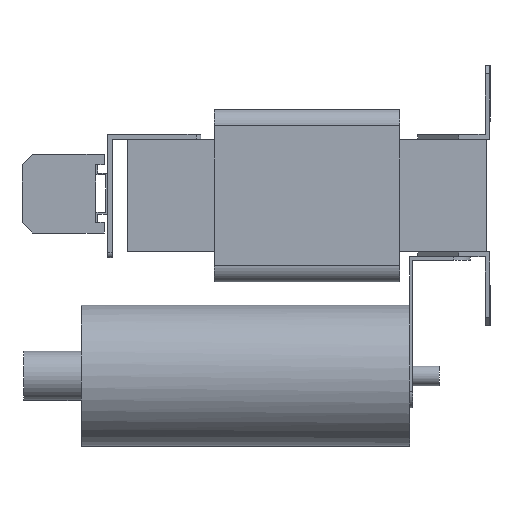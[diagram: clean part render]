
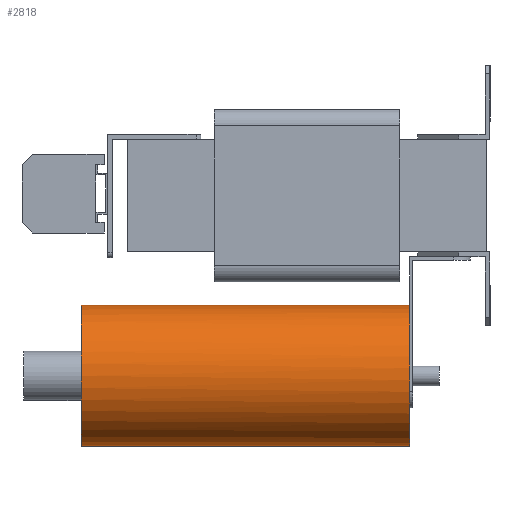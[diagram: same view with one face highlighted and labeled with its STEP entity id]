
A CAD part, left-side view. The second image highlights one B-rep face of the part: STEP entity #2818.
In plain terms, the highlighted cylindrical face has radius 43 mm (diameter 86 mm), a full revolution.
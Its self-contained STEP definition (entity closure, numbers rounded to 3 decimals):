
#72=CYLINDRICAL_SURFACE('',#3082,43.);
#166=CIRCLE('',#3080,43.);
#168=CIRCLE('',#3083,43.);
#169=CIRCLE('',#3084,43.);
#170=CIRCLE('',#3085,43.);
#319=FACE_OUTER_BOUND('',#491,.T.);
#491=EDGE_LOOP('',(#2513,#2514,#2515,#2516,#2517,#2518));
#804=LINE('',#4666,#1115);
#1115=VECTOR('',#3852,43.);
#1372=VERTEX_POINT('',#4644);
#1376=VERTEX_POINT('',#4657);
#1378=VERTEX_POINT('',#4662);
#1379=VERTEX_POINT('',#4664);
#1760=EDGE_CURVE('',#1376,#1376,#166,.T.);
#1762=EDGE_CURVE('',#1372,#1378,#168,.T.);
#1763=EDGE_CURVE('',#1379,#1372,#169,.T.);
#1764=EDGE_CURVE('',#1379,#1376,#804,.T.);
#1765=EDGE_CURVE('',#1378,#1379,#170,.T.);
#2513=ORIENTED_EDGE('',*,*,#1762,.F.);
#2514=ORIENTED_EDGE('',*,*,#1763,.F.);
#2515=ORIENTED_EDGE('',*,*,#1764,.T.);
#2516=ORIENTED_EDGE('',*,*,#1760,.T.);
#2517=ORIENTED_EDGE('',*,*,#1764,.F.);
#2518=ORIENTED_EDGE('',*,*,#1765,.F.);
#2818=ADVANCED_FACE('',(#319),#72,.T.);
#3080=AXIS2_PLACEMENT_3D('',#4658,#3842,#3843);
#3082=AXIS2_PLACEMENT_3D('',#4661,#3846,#3847);
#3083=AXIS2_PLACEMENT_3D('',#4663,#3848,#3849);
#3084=AXIS2_PLACEMENT_3D('',#4665,#3850,#3851);
#3085=AXIS2_PLACEMENT_3D('',#4667,#3853,#3854);
#3842=DIRECTION('center_axis',(0.,-1.,0.));
#3843=DIRECTION('ref_axis',(1.,0.,0.));
#3846=DIRECTION('center_axis',(0.,-1.,0.));
#3847=DIRECTION('ref_axis',(0.,0.,1.));
#3848=DIRECTION('center_axis',(0.,-1.,0.));
#3849=DIRECTION('ref_axis',(0.,0.,1.));
#3850=DIRECTION('center_axis',(0.,-1.,0.));
#3851=DIRECTION('ref_axis',(1.,0.,0.));
#3852=DIRECTION('',(0.,1.,0.));
#3853=DIRECTION('center_axis',(0.,-1.,0.));
#3854=DIRECTION('ref_axis',(1.,0.,0.));
#4644=CARTESIAN_POINT('',(25.,49.,-74.764));
#4657=CARTESIAN_POINT('',(0.,249.,-152.75));
#4658=CARTESIAN_POINT('Origin',(0.,249.,-109.75));
#4661=CARTESIAN_POINT('Origin',(0.,149.,-109.75));
#4662=CARTESIAN_POINT('',(-25.,49.,-74.764));
#4663=CARTESIAN_POINT('Origin',(0.,49.,-109.75));
#4664=CARTESIAN_POINT('',(0.,49.,-152.75));
#4665=CARTESIAN_POINT('Origin',(0.,49.,-109.75));
#4666=CARTESIAN_POINT('',(0.,149.,-152.75));
#4667=CARTESIAN_POINT('Origin',(0.,49.,-109.75));
